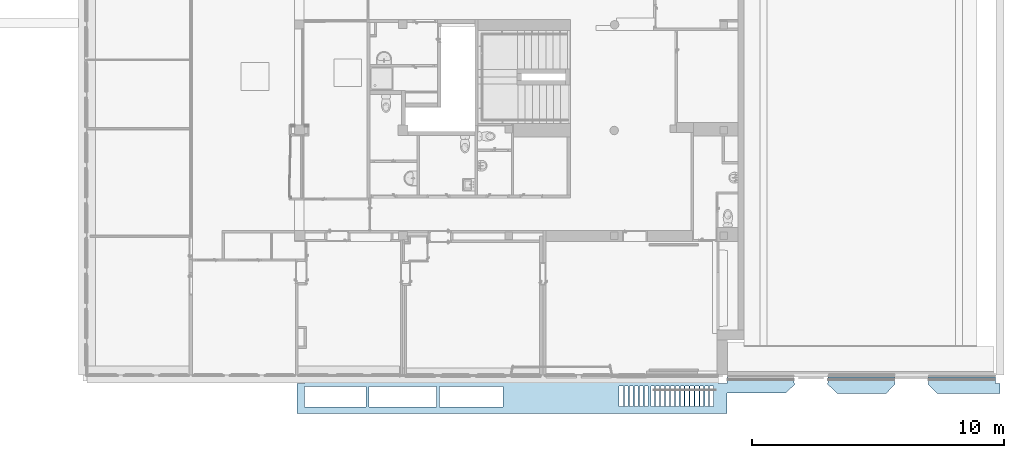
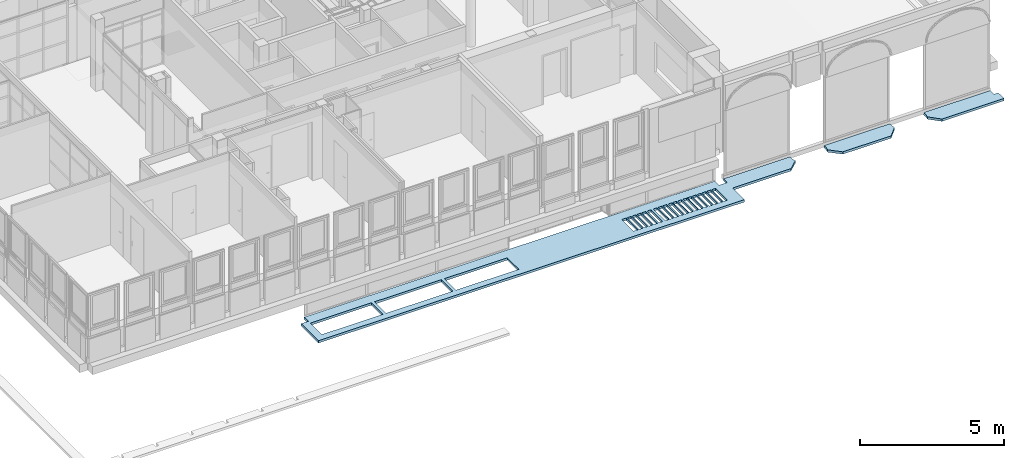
# One storey, part 83 of 97: 3 roofs.
"""IFC4 building model written with IfcOpenShell, lengths in metres."""

from ifc_helpers import new_model, entity, si_unit, converted_unit, derived_unit, direction, frame, origin, place, context, subcontext, project, spatial, polygons, material, layer, layer_set, type_object, element, save


model = new_model("IFC4")

# Units and contexts
model_context = context("Model", 3, precision=1e-05, world=origin(), true_north=direction((6.12303176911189e-17, 1.0)))
body_context = subcontext(model_context, "Body", "Model", "MODEL_VIEW")
ifc_project = project(units=[si_unit("LENGTHUNIT", "METRE"), si_unit("AREAUNIT", "SQUARE_METRE"), si_unit("VOLUMEUNIT", "CUBIC_METRE"), converted_unit("PLANEANGLEUNIT", "DEGREE", entity("IfcRatioMeasure", 0.0174532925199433), si_unit("PLANEANGLEUNIT", "RADIAN"), dimensions=[0, 0, 0, 0, 0, 0, 0]), si_unit("MASSUNIT", "GRAM", prefix="KILO"), derived_unit("MASSDENSITYUNIT", [(si_unit("MASSUNIT", "GRAM", prefix="KILO"), 1), (si_unit("LENGTHUNIT", "METRE"), -3)]), derived_unit("MOMENTOFINERTIAUNIT", [(si_unit("LENGTHUNIT", "METRE"), 4)]), si_unit("TIMEUNIT", "SECOND"), si_unit("FREQUENCYUNIT", "HERTZ"), si_unit("THERMODYNAMICTEMPERATUREUNIT", "DEGREE_CELSIUS"), derived_unit("THERMALTRANSMITTANCEUNIT", [(si_unit("MASSUNIT", "GRAM", prefix="KILO"), 1), (si_unit("THERMODYNAMICTEMPERATUREUNIT", "KELVIN"), -1), (si_unit("TIMEUNIT", "SECOND"), -3)]), derived_unit("VOLUMETRICFLOWRATEUNIT", [(si_unit("LENGTHUNIT", "METRE"), 3), (si_unit("TIMEUNIT", "SECOND"), -1)]), si_unit("ELECTRICCURRENTUNIT", "AMPERE"), si_unit("ELECTRICVOLTAGEUNIT", "VOLT"), si_unit("POWERUNIT", "WATT"), si_unit("FORCEUNIT", "NEWTON", prefix="KILO"), si_unit("ILLUMINANCEUNIT", "LUX"), si_unit("LUMINOUSFLUXUNIT", "LUMEN"), si_unit("LUMINOUSINTENSITYUNIT", "CANDELA"), derived_unit("USERDEFINED", [(si_unit("MASSUNIT", "GRAM", prefix="KILO"), -1), (si_unit("LENGTHUNIT", "METRE"), -2), (si_unit("TIMEUNIT", "SECOND"), 3), (si_unit("LUMINOUSFLUXUNIT", "LUMEN"), 1)]), derived_unit("LINEARVELOCITYUNIT", [(si_unit("LENGTHUNIT", "METRE"), 1), (si_unit("TIMEUNIT", "SECOND"), -1)]), si_unit("PRESSUREUNIT", "PASCAL"), derived_unit("USERDEFINED", [(si_unit("LENGTHUNIT", "METRE"), -2), (si_unit("MASSUNIT", "GRAM", prefix="KILO"), 1), (si_unit("TIMEUNIT", "SECOND"), -2)]), derived_unit("LINEARFORCEUNIT", [(si_unit("MASSUNIT", "GRAM", prefix="KILO"), 1), (si_unit("LENGTHUNIT", "METRE"), 1), (si_unit("TIMEUNIT", "SECOND"), -2), (si_unit("LENGTHUNIT", "METRE"), -1)]), derived_unit("PLANARFORCEUNIT", [(si_unit("MASSUNIT", "GRAM", prefix="KILO"), 1), (si_unit("LENGTHUNIT", "METRE"), 1), (si_unit("TIMEUNIT", "SECOND"), -2), (si_unit("LENGTHUNIT", "METRE"), -2)])], contexts=[model_context])

# Site, building, storey
site_placement = place(None, origin())
site = spatial("IfcSite", under=ifc_project, at=site_placement, Name="Default", CompositionType="ELEMENT")
building_placement = place(site_placement, origin())
building = spatial("IfcBuilding", under=site, at=building_placement, Name="HOTEL CONSULAIRE BOULOGNE SUR MER", CompositionType="ELEMENT")
storey_placement = place(building_placement, frame((0.0, 0.0, 3.62152697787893)))
storey = spatial("IfcBuildingStorey", under=building, at=storey_placement, Name="Niveau 1", CompositionType="ELEMENT", Elevation=3.62152697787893)

# Roofs
ifc_material = material(Name="alu finifion bleu")
ifc_layer = layer(ifc_material, 0.1, Name="alu finifion bleu")
ifc_layer_set = layer_set([ifc_layer], Name="Toit de base:Toit - métallique")
roof_type_1 = type_object("IfcRoofType", Name="Toit de base:Toit - métallique", PredefinedType="NOTDEFINED")
roof_1_placement = place(storey_placement, frame((-5.43672833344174, -31.0911963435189, -1.41826687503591)))
element("IfcRoof", 1, at=roof_1_placement, inside=storey, type_object=roof_type_1, material=ifc_layer_set, Name="Toit de base:Toit - métallique", ObjectType="Toit de base:Toit - métallique", PredefinedType="NOTDEFINED", context=body_context, shape_type="Tessellation", body=[
    polygons([(17.077, 0.0, 0.0), (-1.08286712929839e-15, 5.63090907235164e-14, 0.0), (1.08286712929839e-15, 1.19712923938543, 0.0), (0.287747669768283, 1.19712923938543, 0.0), (0.287747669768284, 1.48512923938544, 0.0), (16.7433666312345, 1.48512923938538, 0.0), (16.7433666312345, 1.19712923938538, 0.0), (17.0833666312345, 1.19712923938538, 0.0), (17.0833666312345, 1.47712923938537, 0.0), (19.7432062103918, 1.47712923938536, 0.0), (19.7432062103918, 1.30299206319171, 0.0), (19.7618457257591, 1.19882419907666, 0.0), (19.7928551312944, 1.16781479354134, 0.0), (19.41, 0.817999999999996, 0.0), (17.077, 0.818, 0.0), (5.65974947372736, 0.26719172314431, 0.0), (8.18574947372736, 0.26719172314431, 0.0), (8.18574947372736, 1.06719172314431, 0.0), (5.65974947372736, 1.06719172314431, 0.0), (2.86007647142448, 0.267191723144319, 0.0), (5.54072494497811, 0.267191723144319, 0.0), (5.54072494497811, 1.06719172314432, 0.0), (2.86007647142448, 1.06719172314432, 0.0), (0.29007647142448, 0.267191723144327, 0.0), (2.74007647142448, 0.267191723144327, 0.0), (2.74007647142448, 1.06719172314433, 0.0), (0.29007647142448, 1.06719172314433, 0.0), (12.9689354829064, 0.275241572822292, 0.0), (12.9689354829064, 1.09224157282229, 0.0), (12.7889354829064, 1.09224157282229, 0.0), (12.7889354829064, 0.275241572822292, 0.0), (13.1584462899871, 0.275241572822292, 0.0), (13.1584462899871, 1.09224157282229, 0.0), (13.0084462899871, 1.09224157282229, 0.0), (13.0084462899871, 0.275241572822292, 0.0), (13.3528759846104, 0.275241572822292, 0.0), (13.3528759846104, 1.09224157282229, 0.0), (13.2028759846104, 1.09224157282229, 0.0), (13.2028759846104, 0.275241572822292, 0.0), (13.5528759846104, 0.275241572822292, 0.0), (13.5528759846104, 1.09224157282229, 0.0), (13.4028759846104, 1.09224157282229, 0.0), (13.4028759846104, 0.275241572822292, 0.0), (13.7528759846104, 0.275241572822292, 0.0), (13.7528759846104, 1.09224157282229, 0.0), (13.6028759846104, 1.09224157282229, 0.0), (13.6028759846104, 0.275241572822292, 0.0), (13.9528759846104, 0.275241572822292, 0.0), (13.9528759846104, 1.09224157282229, 0.0), (13.8028759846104, 1.09224157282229, 0.0), (13.8028759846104, 0.275241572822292, 0.0), (14.2063552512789, 0.275241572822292, 0.0), (14.2063552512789, 1.09224157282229, 0.0), (14.0563552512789, 1.09224157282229, 0.0), (14.0563552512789, 0.275241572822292, 0.0), (14.4005938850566, 0.275241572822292, 0.0), (14.4005938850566, 1.09224157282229, 0.0), (14.2505938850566, 1.09224157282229, 0.0), (14.2505938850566, 0.275241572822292, 0.0), (14.5942347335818, 0.275241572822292, 0.0), (14.5942347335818, 1.09224157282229, 0.0), (14.4442347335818, 1.09224157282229, 0.0), (14.4442347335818, 0.275241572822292, 0.0), (14.7951755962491, 0.275241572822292, 0.0), (14.7951755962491, 1.09224157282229, 0.0), (14.6451755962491, 1.09224157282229, 0.0), (14.6451755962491, 0.275241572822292, 0.0), (14.9898860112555, 0.275241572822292, 0.0), (14.9898860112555, 1.09224157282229, 0.0), (14.8398860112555, 1.09224157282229, 0.0), (14.8398860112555, 0.275241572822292, 0.0), (15.1820165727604, 0.275241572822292, 0.0), (15.1820165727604, 1.09224157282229, 0.0), (15.0320165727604, 1.09224157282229, 0.0), (15.0320165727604, 0.275241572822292, 0.0), (15.3820759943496, 0.275241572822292, 0.0), (15.3820759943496, 1.09224157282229, 0.0), (15.2320759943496, 1.09224157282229, 0.0), (15.2320759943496, 0.275241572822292, 0.0), (15.5724126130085, 0.275241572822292, 0.0), (15.5724126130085, 1.09224157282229, 0.0), (15.4224126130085, 1.09224157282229, 0.0), (15.4224126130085, 0.275241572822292, 0.0), (15.7704905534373, 0.275241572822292, 0.0), (15.7704905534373, 1.09224157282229, 0.0), (15.6204905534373, 1.09224157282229, 0.0), (15.6204905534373, 0.275241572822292, 0.0), (15.9666168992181, 0.275241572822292, 0.0), (15.9666168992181, 1.09224157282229, 0.0), (15.8166168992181, 1.09224157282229, 0.0), (15.8166168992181, 0.275241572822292, 0.0), (16.1581180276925, 0.275241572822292, 0.0), (16.1581180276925, 1.09224157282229, 0.0), (16.0081180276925, 1.09224157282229, 0.0), (16.0081180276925, 0.275241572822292, 0.0), (16.3561016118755, 0.275241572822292, 0.0), (16.3561016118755, 1.09224157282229, 0.0), (16.2061016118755, 1.09224157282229, 0.0), (16.2061016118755, 0.275241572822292, 0.0), (16.5456517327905, 0.275241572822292, 0.0), (16.5456517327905, 1.09224157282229, 0.0), (16.3956517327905, 1.09224157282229, 0.0), (16.3956517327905, 0.275241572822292, 0.0), (1.08286712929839e-15, 1.19712923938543, 0.1), (-1.08286712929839e-15, 5.63090907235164e-14, 0.1), (17.077, 0.0, 0.1), (17.077, 0.818, 0.1), (19.41, 0.817999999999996, 0.1), (19.7928551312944, 1.16781479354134, 0.1), (19.7618457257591, 1.19882419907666, 0.1), (19.7432062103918, 1.30299206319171, 0.1), (19.7432062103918, 1.45612923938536, 0.1), (17.0833666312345, 1.45612923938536, 0.1), (17.0833666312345, 1.19712923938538, 0.1), (16.7433666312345, 1.19712923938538, 0.1), (16.7433666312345, 1.48512923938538, 0.1), (0.287747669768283, 1.48512923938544, 0.1), (0.287747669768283, 1.19712923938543, 0.1), (8.18574947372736, 0.26719172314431, 0.1), (5.65974947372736, 0.26719172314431, 0.1), (5.65974947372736, 1.06719172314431, 0.1), (8.18574947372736, 1.06719172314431, 0.1), (5.54072494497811, 0.267191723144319, 0.1), (2.86007647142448, 0.267191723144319, 0.1), (2.86007647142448, 1.06719172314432, 0.1), (5.54072494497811, 1.06719172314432, 0.1), (2.74007647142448, 0.267191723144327, 0.1), (0.29007647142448, 0.267191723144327, 0.1), (0.29007647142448, 1.06719172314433, 0.1), (2.74007647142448, 1.06719172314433, 0.1), (12.9689354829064, 1.09224157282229, 0.1), (12.9689354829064, 0.275241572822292, 0.1), (12.7889354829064, 0.275241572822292, 0.1), (12.7889354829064, 1.09224157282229, 0.1), (13.1584462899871, 1.09224157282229, 0.1), (13.1584462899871, 0.275241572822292, 0.1), (13.0084462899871, 0.275241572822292, 0.1), (13.0084462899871, 1.09224157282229, 0.1), (13.3528759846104, 1.09224157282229, 0.1), (13.3528759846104, 0.275241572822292, 0.1), (13.2028759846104, 0.275241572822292, 0.1), (13.2028759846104, 1.09224157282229, 0.1), (13.5528759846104, 1.09224157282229, 0.1), (13.5528759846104, 0.275241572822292, 0.1), (13.4028759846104, 0.275241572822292, 0.1), (13.4028759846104, 1.09224157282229, 0.1), (13.7528759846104, 1.09224157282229, 0.1), (13.7528759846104, 0.275241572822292, 0.1), (13.6028759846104, 0.275241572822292, 0.1), (13.6028759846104, 1.09224157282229, 0.1), (13.9528759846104, 1.09224157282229, 0.1), (13.9528759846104, 0.275241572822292, 0.1), (13.8028759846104, 0.275241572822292, 0.1), (13.8028759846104, 1.09224157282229, 0.1), (14.2063552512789, 1.09224157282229, 0.1), (14.2063552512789, 0.275241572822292, 0.1), (14.0563552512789, 0.275241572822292, 0.1), (14.0563552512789, 1.09224157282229, 0.1), (14.4005938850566, 1.09224157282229, 0.1), (14.4005938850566, 0.275241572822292, 0.1), (14.2505938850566, 0.275241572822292, 0.1), (14.2505938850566, 1.09224157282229, 0.1), (14.5942347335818, 1.09224157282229, 0.1), (14.5942347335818, 0.275241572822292, 0.1), (14.4442347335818, 0.275241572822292, 0.1), (14.4442347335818, 1.09224157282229, 0.1), (14.7951755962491, 1.09224157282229, 0.1), (14.7951755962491, 0.275241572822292, 0.1), (14.6451755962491, 0.275241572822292, 0.1), (14.6451755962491, 1.09224157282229, 0.1), (14.9898860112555, 1.09224157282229, 0.1), (14.9898860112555, 0.275241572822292, 0.1), (14.8398860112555, 0.275241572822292, 0.1), (14.8398860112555, 1.09224157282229, 0.1), (15.1820165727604, 1.09224157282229, 0.1), (15.1820165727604, 0.275241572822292, 0.1), (15.0320165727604, 0.275241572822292, 0.1), (15.0320165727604, 1.09224157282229, 0.1), (15.3820759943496, 1.09224157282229, 0.1), (15.3820759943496, 0.275241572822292, 0.1), (15.2320759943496, 0.275241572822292, 0.1), (15.2320759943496, 1.09224157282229, 0.1), (15.5724126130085, 1.09224157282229, 0.1), (15.5724126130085, 0.275241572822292, 0.1), (15.4224126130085, 0.275241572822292, 0.1), (15.4224126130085, 1.09224157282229, 0.1), (15.7704905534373, 1.09224157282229, 0.1), (15.7704905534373, 0.275241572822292, 0.1), (15.6204905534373, 0.275241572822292, 0.1), (15.6204905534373, 1.09224157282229, 0.1), (15.9666168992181, 1.09224157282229, 0.1), (15.9666168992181, 0.275241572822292, 0.1), (15.8166168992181, 0.275241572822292, 0.1), (15.8166168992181, 1.09224157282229, 0.1), (16.1581180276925, 1.09224157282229, 0.1), (16.1581180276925, 0.275241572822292, 0.1), (16.0081180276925, 0.275241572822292, 0.1), (16.0081180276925, 1.09224157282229, 0.1), (16.3561016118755, 1.09224157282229, 0.1), (16.3561016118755, 0.275241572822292, 0.1), (16.2061016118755, 0.275241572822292, 0.1), (16.2061016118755, 1.09224157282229, 0.1), (16.5456517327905, 1.09224157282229, 0.1), (16.5456517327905, 0.275241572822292, 0.1), (16.3956517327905, 0.275241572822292, 0.1), (16.3956517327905, 1.09224157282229, 0.1), (19.7432062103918, 1.47712923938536, 0.0282668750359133), (19.7432062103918, 1.45612923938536, 0.0282668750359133), (17.0833666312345, 1.47712923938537, 0.0282668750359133), (17.0833666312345, 1.45612923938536, 0.0282668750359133)], [[[2, 3, 4, 5, 6, 7, 8, 9, 10, 11, 12, 13, 14, 15, 1], [20, 21, 22, 23], [19, 16, 17, 18], [30, 31, 28, 29], [34, 35, 32, 33], [38, 39, 36, 37], [42, 43, 40, 41], [46, 47, 44, 45], [50, 51, 48, 49], [54, 55, 52, 53], [58, 59, 56, 57], [62, 63, 60, 61], [66, 67, 64, 65], [70, 71, 68, 69], [74, 75, 72, 73], [78, 79, 76, 77], [82, 83, 80, 81], [86, 87, 84, 85], [90, 91, 88, 89], [94, 95, 92, 93], [98, 99, 96, 97], [102, 103, 100, 101], [24, 25, 26, 27]], [[105, 106, 107, 108, 109, 110, 111, 112, 113, 114, 115, 116, 117, 118, 104], [128, 129, 130, 127], [124, 125, 126, 123], [120, 121, 122, 119], [133, 134, 131, 132], [137, 138, 135, 136], [141, 142, 139, 140], [145, 146, 143, 144], [149, 150, 147, 148], [153, 154, 151, 152], [157, 158, 155, 156], [161, 162, 159, 160], [165, 166, 163, 164], [169, 170, 167, 168], [173, 174, 171, 172], [177, 178, 175, 176], [181, 182, 179, 180], [185, 186, 183, 184], [189, 190, 187, 188], [193, 194, 191, 192], [197, 198, 195, 196], [201, 202, 199, 200], [205, 206, 203, 204]], [[209, 210, 208, 207]], [[104, 3, 2, 105]], [[210, 209, 9, 8, 114, 113]], [[117, 5, 4, 118]], [[122, 18, 17, 119]], [[126, 22, 21, 123]], [[130, 26, 25, 127]], [[131, 29, 28, 132]], [[135, 33, 32, 136]], [[139, 37, 36, 140]], [[143, 41, 40, 144]], [[147, 45, 44, 148]], [[151, 49, 48, 152]], [[155, 53, 52, 156]], [[159, 57, 56, 160]], [[163, 61, 60, 164]], [[167, 65, 64, 168]], [[171, 69, 68, 172]], [[175, 73, 72, 176]], [[179, 77, 76, 180]], [[183, 81, 80, 184]], [[187, 85, 84, 188]], [[191, 89, 88, 192]], [[195, 93, 92, 196]], [[199, 97, 96, 200]], [[203, 101, 100, 204]], [[105, 2, 1, 106]], [[107, 15, 14, 108]], [[121, 19, 18, 122]], [[126, 125, 23, 22]], [[129, 27, 26, 130]], [[134, 30, 29, 131]], [[135, 138, 34, 33]], [[142, 38, 37, 139]], [[143, 146, 42, 41]], [[150, 46, 45, 147]], [[151, 154, 50, 49]], [[155, 158, 54, 53]], [[159, 162, 58, 57]], [[166, 62, 61, 163]], [[167, 170, 66, 65]], [[174, 70, 69, 171]], [[175, 178, 74, 73]], [[182, 78, 77, 179]], [[186, 82, 81, 183]], [[190, 86, 85, 187]], [[194, 90, 89, 191]], [[198, 94, 93, 195]], [[202, 98, 97, 199]], [[206, 102, 101, 203]], [[106, 1, 15, 107]], [[111, 11, 10, 207, 208, 112]], [[115, 7, 6, 116]], [[120, 16, 19, 121]], [[124, 20, 23, 125]], [[128, 24, 27, 129]], [[133, 31, 30, 134]], [[137, 35, 34, 138]], [[141, 39, 38, 142]], [[145, 43, 42, 146]], [[149, 47, 46, 150]], [[153, 51, 50, 154]], [[157, 55, 54, 158]], [[161, 59, 58, 162]], [[165, 63, 62, 166]], [[169, 67, 66, 170]], [[173, 71, 70, 174]], [[177, 75, 74, 178]], [[181, 79, 78, 182]], [[185, 83, 82, 186]], [[189, 87, 86, 190]], [[193, 91, 90, 194]], [[197, 95, 94, 198]], [[201, 99, 98, 202]], [[205, 103, 102, 206]], [[108, 14, 13, 109]], [[109, 13, 12, 110]], [[110, 12, 11, 111]], [[207, 10, 9, 209]], [[114, 8, 7, 115]], [[118, 4, 3, 104]], [[116, 6, 5, 117]], [[119, 17, 16, 120]], [[124, 123, 21, 20]], [[127, 25, 24, 128]], [[132, 28, 31, 133]], [[137, 136, 32, 35]], [[140, 36, 39, 141]], [[145, 144, 40, 43]], [[148, 44, 47, 149]], [[153, 152, 48, 51]], [[157, 156, 52, 55]], [[161, 160, 56, 59]], [[164, 60, 63, 165]], [[169, 168, 64, 67]], [[172, 68, 71, 173]], [[177, 176, 72, 75]], [[180, 76, 79, 181]], [[184, 80, 83, 185]], [[188, 84, 87, 189]], [[192, 88, 91, 193]], [[196, 92, 95, 197]], [[200, 96, 99, 201]], [[204, 100, 103, 205]], [[113, 112, 208, 210]]], closed=True),
])
roof_type_2 = type_object("IfcRoofType", Name="Toit de base:Toit - métallique", PredefinedType="NOTDEFINED")
roof_2_placement = place(storey_placement, frame((15.6444957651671, -30.2920671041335, -1.4183)))
element("IfcRoof", 2, at=roof_2_placement, inside=storey, type_object=roof_type_2, material=ifc_layer_set, Name="Toit de base:Toit - métallique", ObjectType="Toit de base:Toit - métallique", PredefinedType="NOTDEFINED", context=body_context, shape_type="Tessellation", body=[
    polygons([(2.65898211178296, 0.67799999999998, 0.0), (2.65898211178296, 0.503862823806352, 0.0), (2.68198168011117, 0.375328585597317, 0.0), (2.33198211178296, 0.0, 0.0), (0.396927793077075, 4.33146851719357e-15, 0.0), (0.0, 0.370141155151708, 0.0), (0.023927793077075, 0.503862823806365, 0.0), (0.023927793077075, 0.677999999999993, 0.0), (0.0, 0.370141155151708, 0.1), (0.396927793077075, 4.33146851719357e-15, 0.1), (2.33198211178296, 0.0, 0.1), (2.68198168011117, 0.375328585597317, 0.1), (2.65898211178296, 0.503862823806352, 0.1), (2.65898211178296, 0.656999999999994, 0.1), (0.023927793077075, 0.656999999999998, 0.1), (0.023927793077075, 0.503862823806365, 0.1), (0.023927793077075, 0.677999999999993, 0.0282999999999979), (2.65898211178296, 0.67799999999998, 0.0282999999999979), (0.023927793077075, 0.656999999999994, 0.0282999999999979), (2.65898211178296, 0.656999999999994, 0.0282999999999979)], [[[7, 8, 1, 2, 3, 4, 5, 6]], [[9, 10, 11, 12, 13, 14, 15, 16]], [[19, 20, 18, 17]], [[18, 1, 8, 17]], [[19, 15, 14, 20]], [[10, 5, 4, 11]], [[19, 17, 8, 7, 16, 15]], [[16, 7, 6, 9]], [[13, 2, 1, 18, 20, 14]], [[12, 3, 2, 13]], [[9, 6, 5, 10]], [[11, 4, 3, 12]]], closed=True),
])
roof_type_3 = type_object("IfcRoofType", Name="Toit de base:Toit - métallique", PredefinedType="NOTDEFINED")
roof_3_placement = place(storey_placement, frame((19.6410996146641, -30.2920671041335, -1.4183)))
element("IfcRoof", 3, at=roof_3_placement, inside=storey, type_object=roof_type_3, material=ifc_layer_set, Name="Toit de base:Toit - métallique", ObjectType="Toit de base:Toit - métallique", PredefinedType="NOTDEFINED", context=body_context, shape_type="Tessellation", body=[
    polygons([(0.0243239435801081, 0.677999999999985, 0.0), (2.68753868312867, 0.677999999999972, 0.0), (2.68753868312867, 0.397999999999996, 0.0), (2.85753868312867, 0.397999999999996, 0.0), (2.85753868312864, 0.0, 0.0), (0.367927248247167, 4.33146851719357e-15, 0.0), (4.33146851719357e-15, 0.367927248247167, 0.0), (0.0243239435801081, 0.503862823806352, 0.0), (4.33146851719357e-15, 0.367927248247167, 0.1), (0.367927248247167, 4.33146851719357e-15, 0.1), (2.85753868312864, 0.0, 0.1), (2.85753868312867, 0.397999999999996, 0.1), (2.68753868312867, 0.397999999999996, 0.1), (2.68753868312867, 0.657000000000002, 0.1), (0.0243239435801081, 0.657000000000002, 0.1), (0.0243239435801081, 0.503862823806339, 0.1), (0.0243239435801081, 0.677999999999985, 0.0282999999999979), (2.68753868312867, 0.677999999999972, 0.0282999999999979), (0.0243239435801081, 0.657000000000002, 0.0282999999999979), (2.68753868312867, 0.657000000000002, 0.0282999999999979)], [[[8, 1, 2, 3, 4, 5, 6, 7]], [[9, 10, 11, 12, 13, 14, 15, 16]], [[17, 19, 20, 18]], [[18, 2, 1, 17]], [[12, 4, 3, 13]], [[19, 15, 14, 20]], [[10, 6, 5, 11]], [[19, 17, 1, 8, 16, 15]], [[16, 8, 7, 9]], [[13, 3, 2, 18, 20, 14]], [[11, 5, 4, 12]], [[9, 7, 6, 10]]], closed=True),
])

save(model, "model.ifc")
